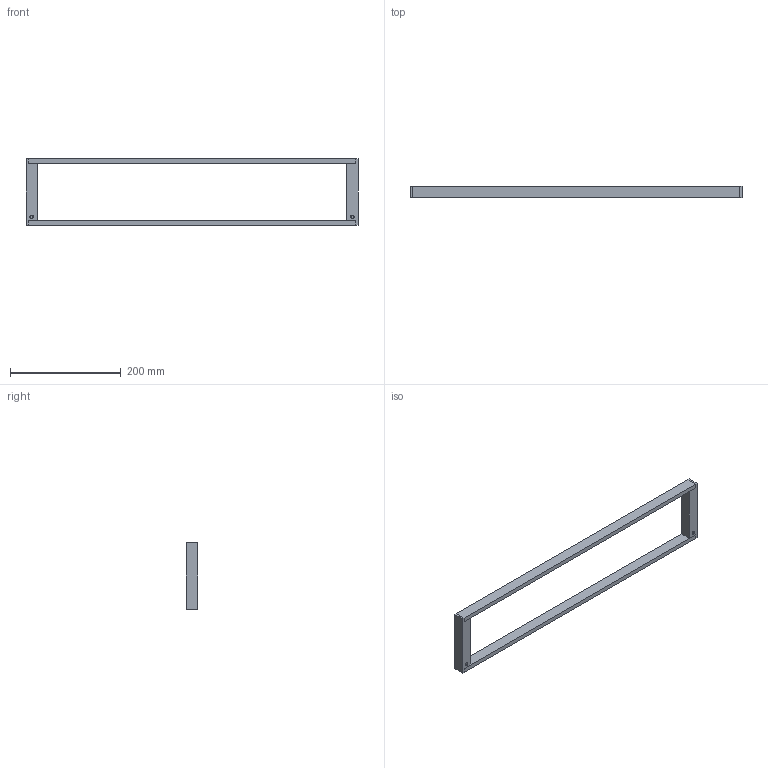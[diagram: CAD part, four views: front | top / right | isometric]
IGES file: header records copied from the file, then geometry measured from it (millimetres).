
Start section: SolidWorks IGES file using analytic representation for surfaces
Global section: file name: G:\Projects\New project\For Marketing\IGS\DXF & IGS\2290160.IGS; native system: SolidWorks 2010; preprocessor: SolidWorks 2010; author: weijuan; date: 151007.162130; units: inch
Bounding box: 600 x 20 x 120 mm (x, y, z)
Surface area: 84482.6 mm2 (no closed solid volume)
Topology: 0 solids, 0 shells, 38 faces, 372 edges, 372 vertices
Faces by surface type: bspline 22, revolution 16
